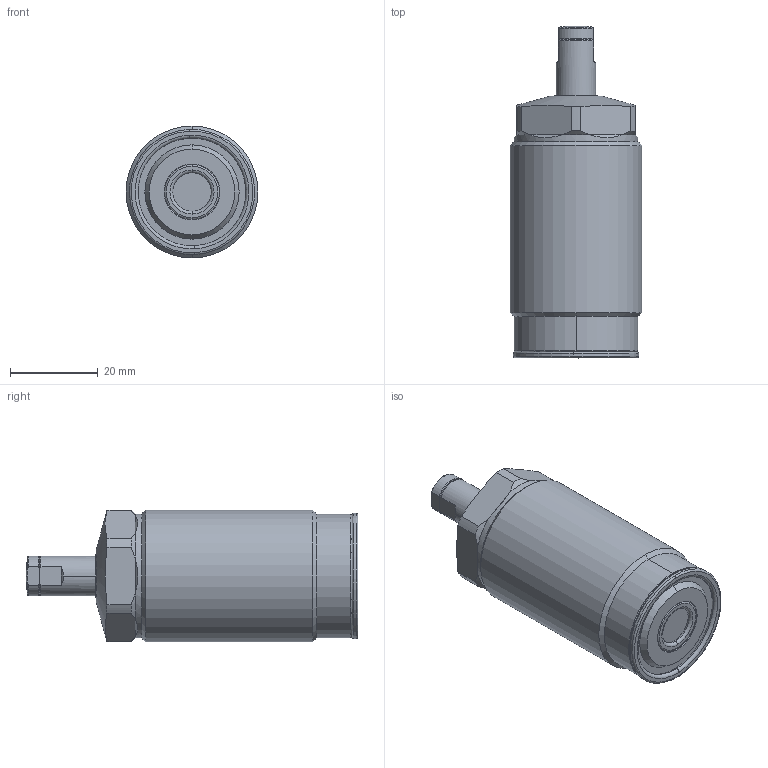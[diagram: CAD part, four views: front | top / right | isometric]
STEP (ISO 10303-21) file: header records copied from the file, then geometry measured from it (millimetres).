
FILE_DESCRIPTION(/* description */ (''),/* implementation_level */ '2;1');
FILE_NAME(/* name */ 'TNE30.stp',/* time_stamp */ '2025-01-09T15:30:49+08:00',/* author */ (''),/* organization */ (''),/* preprocessor_version */ 'ST-DEVELOPER v16.7',/* originating_system */ 'SIEMENS PLM Software NX 12.0',/* authorisation */ '');
FILE_SCHEMA (('AUTOMOTIVE_DESIGN { 1 0 10303 214 3 1 1 1 }'));
Length unit declared in the file: millimetre
Products named in the file (6): TNE30-01958; TNE30-05; TNE30-03; TNE30-04; TNE30-02; TNE30_stp
Assembly tree (5 placements, depth 2):
  TNE30_stp
    TNE30-02
    TNE30-04
    TNE30-03
    TNE30-05
    TNE30-01958
Bounding box: 30 x 75.5 x 30 mm (x, y, z)
Volume: 40371 mm3; surface area: 8238.1 mm2
Topology: 5 solids, 5 shells, 128 faces, 277 edges, 166 vertices
Faces by surface type: cylinder 36, torus 36, plane 34, cone 20, sphere 2
Full cylindrical faces by diameter (mm): 28.2 x1, 30 x1
Entity records: 3832 total; most frequent: CARTESIAN_POINT 843, DIRECTION 674, ORIENTED_EDGE 546, AXIS2_PLACEMENT_3D 301, EDGE_CURVE 273, VERTEX_POINT 166, CIRCLE 161, EDGE_LOOP 143
